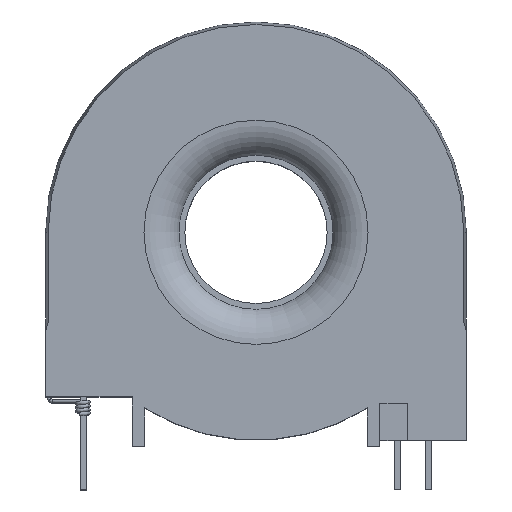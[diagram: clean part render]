
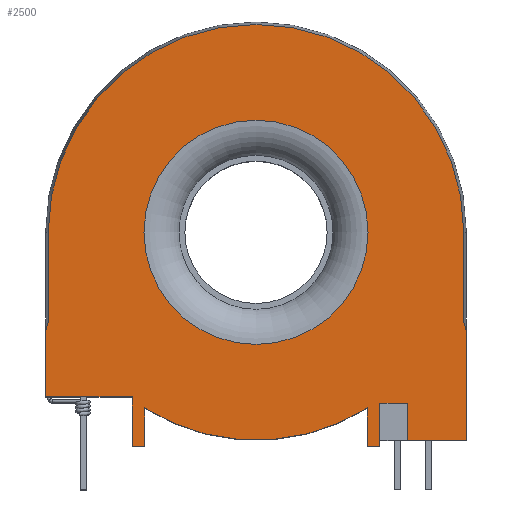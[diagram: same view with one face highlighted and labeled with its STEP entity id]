
A CAD part, top view. The second image highlights one B-rep face of the part: STEP entity #2500.
In plain terms, the highlighted planar face has unit normal (0, 0, 1).
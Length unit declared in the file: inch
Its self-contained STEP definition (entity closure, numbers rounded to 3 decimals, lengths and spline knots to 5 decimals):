
#98=PLANE('',#2702);
#127=FACE_BOUND('',#453,.T.);
#333=FACE_OUTER_BOUND('',#452,.T.);
#452=EDGE_LOOP('',(#2109,#2110,#2111,#2112,#2113,#2114,#2115,#2116,#2117,
#2118,#2119,#2120,#2121,#2122,#2123,#2124,#2125,#2126));
#453=EDGE_LOOP('',(#2127));
#489=CIRCLE('',#2563,0.09843);
#491=CIRCLE('',#2569,0.09843);
#493=CIRCLE('',#2577,0.66104);
#495=CIRCLE('',#2584,0.3565);
#537=CIRCLE('',#2703,0.66142);
#562=LINE('',#4469,#754);
#566=LINE('',#4476,#758);
#676=LINE('',#5886,#868);
#677=LINE('',#5888,#869);
#678=LINE('',#5890,#870);
#679=LINE('',#5892,#871);
#680=LINE('',#5894,#872);
#681=LINE('',#5896,#873);
#682=LINE('',#5900,#874);
#683=LINE('',#5902,#875);
#684=LINE('',#5904,#876);
#685=LINE('',#5906,#877);
#686=LINE('',#5908,#878);
#687=LINE('',#5909,#879);
#754=VECTOR('',#2812,0.3937);
#758=VECTOR('',#2818,0.3937);
#868=VECTOR('',#3182,0.31496);
#869=VECTOR('',#3183,0.17717);
#870=VECTOR('',#3184,0.27559);
#871=VECTOR('',#3185,0.15748);
#872=VECTOR('',#3186,0.03937);
#873=VECTOR('',#3187,0.1226);
#874=VECTOR('',#3190,0.1226);
#875=VECTOR('',#3191,0.03937);
#876=VECTOR('',#3192,0.1378);
#877=VECTOR('',#3193,0.08858);
#878=VECTOR('',#3194,0.11811);
#879=VECTOR('',#3195,0.18701);
#995=VERTEX_POINT('',#4437);
#996=VERTEX_POINT('',#4439);
#999=VERTEX_POINT('',#4449);
#1001=VERTEX_POINT('',#4452);
#1006=VERTEX_POINT('',#4468);
#1008=VERTEX_POINT('',#4474);
#1016=VERTEX_POINT('',#4516);
#1129=VERTEX_POINT('',#5885);
#1130=VERTEX_POINT('',#5887);
#1131=VERTEX_POINT('',#5889);
#1132=VERTEX_POINT('',#5891);
#1133=VERTEX_POINT('',#5893);
#1134=VERTEX_POINT('',#5895);
#1135=VERTEX_POINT('',#5897);
#1136=VERTEX_POINT('',#5899);
#1137=VERTEX_POINT('',#5901);
#1138=VERTEX_POINT('',#5903);
#1139=VERTEX_POINT('',#5905);
#1140=VERTEX_POINT('',#5907);
#1246=EDGE_CURVE('',#995,#996,#489,.T.);
#1251=EDGE_CURVE('',#1001,#999,#491,.T.);
#1259=EDGE_CURVE('',#995,#1006,#562,.T.);
#1263=EDGE_CURVE('',#1008,#999,#566,.T.);
#1264=EDGE_CURVE('',#1006,#1008,#493,.T.);
#1275=EDGE_CURVE('',#1016,#1016,#495,.T.);
#1478=EDGE_CURVE('',#1001,#1129,#676,.T.);
#1479=EDGE_CURVE('',#1130,#996,#677,.T.);
#1480=EDGE_CURVE('',#1130,#1131,#678,.T.);
#1481=EDGE_CURVE('',#1131,#1132,#679,.T.);
#1482=EDGE_CURVE('',#1133,#1132,#680,.T.);
#1483=EDGE_CURVE('',#1133,#1134,#681,.T.);
#1484=EDGE_CURVE('',#1134,#1135,#537,.T.);
#1485=EDGE_CURVE('',#1135,#1136,#682,.T.);
#1486=EDGE_CURVE('',#1137,#1136,#683,.T.);
#1487=EDGE_CURVE('',#1137,#1138,#684,.T.);
#1488=EDGE_CURVE('',#1138,#1139,#685,.T.);
#1489=EDGE_CURVE('',#1139,#1140,#686,.T.);
#1490=EDGE_CURVE('',#1140,#1129,#687,.T.);
#2109=ORIENTED_EDGE('',*,*,#1478,.F.);
#2110=ORIENTED_EDGE('',*,*,#1251,.T.);
#2111=ORIENTED_EDGE('',*,*,#1263,.F.);
#2112=ORIENTED_EDGE('',*,*,#1264,.F.);
#2113=ORIENTED_EDGE('',*,*,#1259,.F.);
#2114=ORIENTED_EDGE('',*,*,#1246,.T.);
#2115=ORIENTED_EDGE('',*,*,#1479,.F.);
#2116=ORIENTED_EDGE('',*,*,#1480,.T.);
#2117=ORIENTED_EDGE('',*,*,#1481,.T.);
#2118=ORIENTED_EDGE('',*,*,#1482,.F.);
#2119=ORIENTED_EDGE('',*,*,#1483,.T.);
#2120=ORIENTED_EDGE('',*,*,#1484,.T.);
#2121=ORIENTED_EDGE('',*,*,#1485,.T.);
#2122=ORIENTED_EDGE('',*,*,#1486,.F.);
#2123=ORIENTED_EDGE('',*,*,#1487,.T.);
#2124=ORIENTED_EDGE('',*,*,#1488,.T.);
#2125=ORIENTED_EDGE('',*,*,#1489,.T.);
#2126=ORIENTED_EDGE('',*,*,#1490,.T.);
#2127=ORIENTED_EDGE('',*,*,#1275,.F.);
#2500=ADVANCED_FACE('',(#333,#127),#98,.F.);
#2563=AXIS2_PLACEMENT_3D('',#4441,#2782,#2783);
#2569=AXIS2_PLACEMENT_3D('',#4453,#2795,#2796);
#2577=AXIS2_PLACEMENT_3D('',#4478,#2821,#2822);
#2584=AXIS2_PLACEMENT_3D('',#4517,#2841,#2842);
#2702=AXIS2_PLACEMENT_3D('',#5884,#3180,#3181);
#2703=AXIS2_PLACEMENT_3D('',#5898,#3188,#3189);
#2782=DIRECTION('center_axis',(0.,0.,
1.));
#2783=DIRECTION('ref_axis',(-0.79,0.613,0.));
#2795=DIRECTION('center_axis',(0.,0.,
1.));
#2796=DIRECTION('ref_axis',(1.,0.,0.));
#2812=DIRECTION('',(0.,1.,0.));
#2818=DIRECTION('',(0.,-1.,0.));
#2821=DIRECTION('center_axis',(0.,0.,
-1.));
#2822=DIRECTION('ref_axis',(1.,0.,0.));
#2841=DIRECTION('center_axis',(0.,0.,
1.));
#2842=DIRECTION('ref_axis',(1.,0.,0.));
#3180=DIRECTION('center_axis',(0.,0.,-1.));
#3181=DIRECTION('ref_axis',(-1.,0.,0.));
#3182=DIRECTION('',(0.,-1.,0.));
#3183=DIRECTION('',(0.,1.,0.));
#3184=DIRECTION('',(1.,0.,0.));
#3185=DIRECTION('',(0.,-1.,0.));
#3186=DIRECTION('',(-1.,0.,0.));
#3187=DIRECTION('',(0.,1.,0.));
#3188=DIRECTION('center_axis',(0.,0.,1.));
#3189=DIRECTION('ref_axis',(1.,0.,0.));
#3190=DIRECTION('',(0.,-1.,0.));
#3191=DIRECTION('',(-1.,0.,0.));
#3192=DIRECTION('',(0.,1.,0.));
#3193=DIRECTION('',(1.,0.,0.));
#3194=DIRECTION('',(0.,-1.,0.));
#3195=DIRECTION('',(1.,0.,0.));
#4437=CARTESIAN_POINT('',(-0.66104,-0.28732,0.49213));
#4439=CARTESIAN_POINT('',(-0.66929,-0.32677,0.49213));
#4441=CARTESIAN_POINT('Origin',(-0.57087,-0.32677,0.49213));
#4449=CARTESIAN_POINT('',(0.66104,-0.28732,0.49213));
#4452=CARTESIAN_POINT('',(0.66929,-0.32677,0.49213));
#4453=CARTESIAN_POINT('Origin',(0.57087,-0.32677,0.49213));
#4468=CARTESIAN_POINT('',(-0.66104,0.,0.49213));
#4469=CARTESIAN_POINT('',(-0.66104,-0.51969,0.49213));
#4474=CARTESIAN_POINT('',(0.66104,0.,0.49213));
#4476=CARTESIAN_POINT('',(0.66104,-0.25984,0.49213));
#4478=CARTESIAN_POINT('Origin',(0.,0.,
0.49213));
#4516=CARTESIAN_POINT('',(-0.3565,0.,0.49213));
#4517=CARTESIAN_POINT('Origin',(0.,0.,
0.49213));
#5884=CARTESIAN_POINT('Origin',(-0.66929,-0.34646,0.49213));
#5885=CARTESIAN_POINT('',(0.66929,-0.66142,0.49213));
#5886=CARTESIAN_POINT('',(0.66929,-0.34646,0.49213));
#5887=CARTESIAN_POINT('',(-0.66929,-0.52362,0.49213));
#5888=CARTESIAN_POINT('',(-0.66929,-0.52362,0.49213));
#5889=CARTESIAN_POINT('',(-0.3937,-0.52362,0.49213));
#5890=CARTESIAN_POINT('',(-0.66929,-0.52362,0.49213));
#5891=CARTESIAN_POINT('',(-0.3937,-0.6811,0.49213));
#5892=CARTESIAN_POINT('',(-0.3937,-0.52362,0.49213));
#5893=CARTESIAN_POINT('',(-0.35433,-0.6811,0.49213));
#5894=CARTESIAN_POINT('',(-0.35433,-0.6811,0.49213));
#5895=CARTESIAN_POINT('',(-0.35433,-0.5585,0.49213));
#5896=CARTESIAN_POINT('',(-0.35433,-0.6811,0.49213));
#5897=CARTESIAN_POINT('',(0.35433,-0.5585,0.49213));
#5898=CARTESIAN_POINT('Origin',(0.,0.,
0.49213));
#5899=CARTESIAN_POINT('',(0.35433,-0.6811,0.49213));
#5900=CARTESIAN_POINT('',(0.35433,-0.5585,0.49213));
#5901=CARTESIAN_POINT('',(0.3937,-0.6811,0.49213));
#5902=CARTESIAN_POINT('',(0.3937,-0.6811,0.49213));
#5903=CARTESIAN_POINT('',(0.3937,-0.54331,0.49213));
#5904=CARTESIAN_POINT('',(0.3937,-0.6811,0.49213));
#5905=CARTESIAN_POINT('',(0.48228,-0.54331,0.49213));
#5906=CARTESIAN_POINT('',(0.3937,-0.54331,0.49213));
#5907=CARTESIAN_POINT('',(0.48228,-0.66142,0.49213));
#5908=CARTESIAN_POINT('',(0.48228,-0.54331,0.49213));
#5909=CARTESIAN_POINT('',(0.48228,-0.66142,0.49213));
